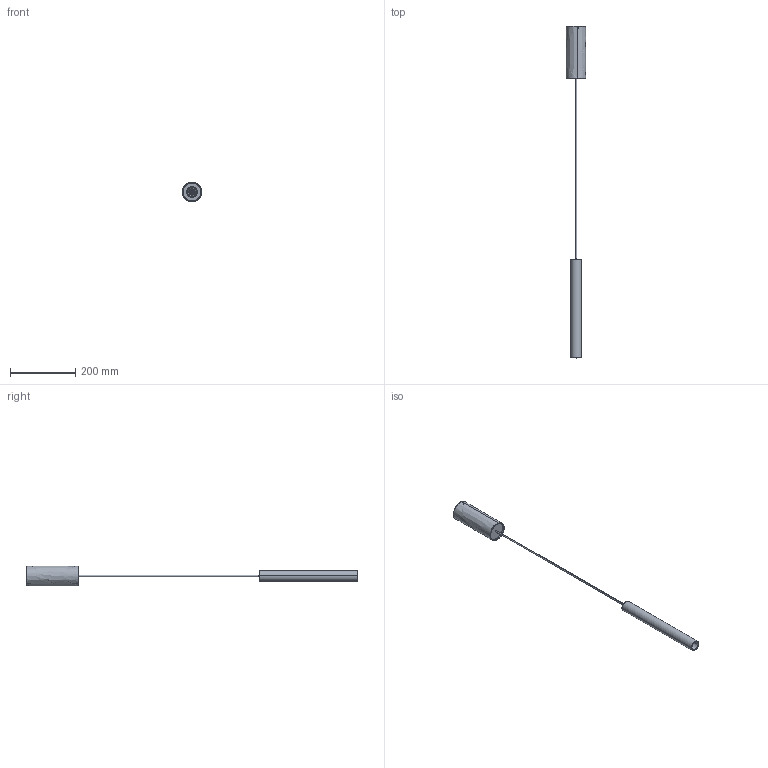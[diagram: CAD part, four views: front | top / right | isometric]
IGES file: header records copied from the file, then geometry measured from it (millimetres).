
Start section: SolidWorks IGES file using analytic representation for surfaces
Global section: file name: \\srvficheros\personales\o.domenech\3D\LIBRERIA_3D\Producto\PIPE-3986\WIP\PIPE-C3986100-Ø32X300\PIPE-C398610-3D.IGS; native system: SolidWorks 2023; preprocessor: SolidWorks 2023; author: o.domenech; date: 240725.143337; units: millimetre
Bounding box: 60 x 1016 x 60.16 mm (x, y, z)
Surface area: 120073 mm2 (no closed solid volume)
Topology: 0 solids, 0 shells, 63 faces, 2129 edges, 2396 vertices
Faces by surface type: bspline 32, revolution 31
